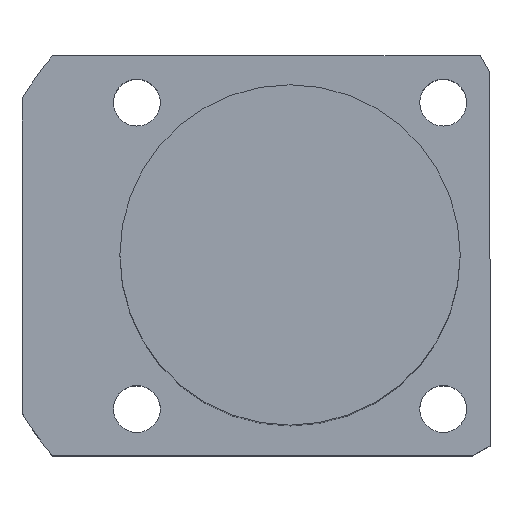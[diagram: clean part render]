
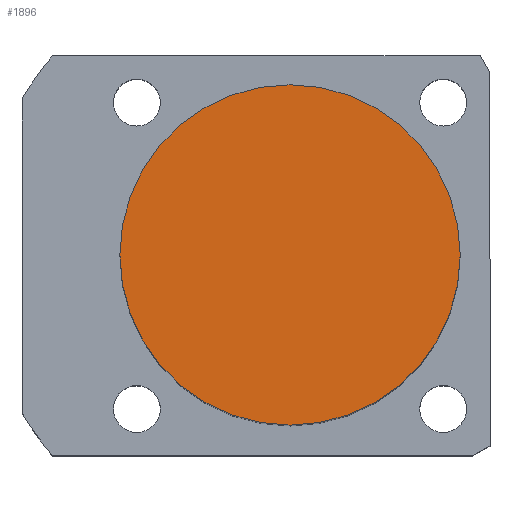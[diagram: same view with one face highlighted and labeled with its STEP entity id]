
A CAD part, top view. The second image highlights one B-rep face of the part: STEP entity #1896.
In plain terms, the highlighted planar face has unit normal (0, 0, 1).
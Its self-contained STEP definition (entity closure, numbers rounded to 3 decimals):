
#156 = AXIS2_PLACEMENT_3D ( 'NONE', #4044, #1929, #4390 ) ;
#176 = ORIENTED_EDGE ( 'NONE', *, *, #614, .T. ) ;
#362 = DIRECTION ( 'NONE',  ( 0., 0., 1. ) ) ;
#614 = EDGE_CURVE ( 'NONE', #3444, #2263, #3777, .T. ) ;
#1184 = AXIS2_PLACEMENT_3D ( 'NONE', #2102, #362, #2819 ) ;
#1808 = CARTESIAN_POINT ( 'NONE',  ( 20., 0., 71.5 ) ) ;
#1896 = ADVANCED_FACE ( 'NONE', ( #3711 ), #3514, .T. ) ;
#1929 = DIRECTION ( 'NONE',  ( 0., 0., 1. ) ) ;
#1997 = AXIS2_PLACEMENT_3D ( 'NONE', #3091, #3071, #3053 ) ;
#2102 = CARTESIAN_POINT ( 'NONE',  ( 0., 0., 71.5 ) ) ;
#2263 = VERTEX_POINT ( 'NONE', #1808 ) ;
#2819 = DIRECTION ( 'NONE',  ( 1., 0., 0. ) ) ;
#3053 = DIRECTION ( 'NONE',  ( 1., 0., 0. ) ) ;
#3071 = DIRECTION ( 'NONE',  ( 0., 0., 1. ) ) ;
#3091 = CARTESIAN_POINT ( 'NONE',  ( 0., 0., 71.5 ) ) ;
#3150 = CIRCLE ( 'NONE', #156, 20. ) ;
#3159 = EDGE_CURVE ( 'NONE', #2263, #3444, #3150, .T. ) ;
#3282 = ORIENTED_EDGE ( 'NONE', *, *, #3159, .T. ) ;
#3444 = VERTEX_POINT ( 'NONE', #3462 ) ;
#3462 = CARTESIAN_POINT ( 'NONE',  ( -20., 0., 71.5 ) ) ;
#3514 = PLANE ( 'NONE',  #1184 ) ;
#3711 = FACE_OUTER_BOUND ( 'NONE', #4597, .T. ) ;
#3777 = CIRCLE ( 'NONE', #1997, 20. ) ;
#4044 = CARTESIAN_POINT ( 'NONE',  ( 0., 0., 71.5 ) ) ;
#4390 = DIRECTION ( 'NONE',  ( 1., 0., 0. ) ) ;
#4597 = EDGE_LOOP ( 'NONE', ( #176, #3282 ) ) ;
